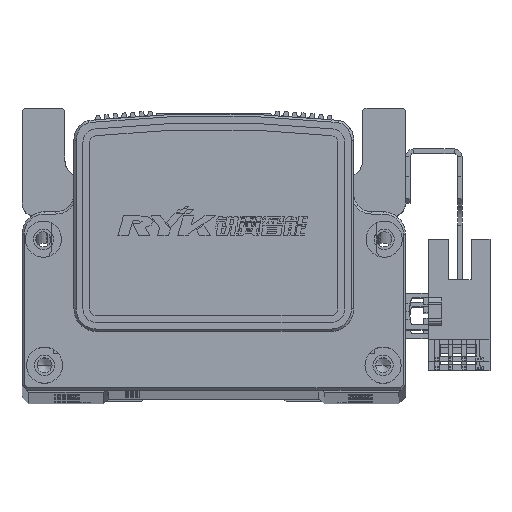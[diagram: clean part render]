
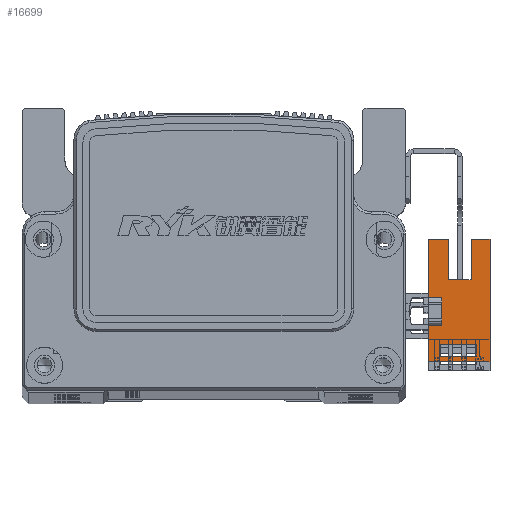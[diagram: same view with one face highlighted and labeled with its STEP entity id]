
A CAD part, top view. The second image highlights one B-rep face of the part: STEP entity #16699.
In plain terms, the highlighted planar face has unit normal (0, 0, 1) as drawn and (1, 0, 0) by its records, which use the part's own axes.
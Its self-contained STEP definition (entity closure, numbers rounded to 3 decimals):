
#3713 = DIRECTION ( 'NONE',  ( 0., 0., 1. ) ) ;
#3725 = DIRECTION ( 'NONE',  ( 0., 1., 0. ) ) ;
#3743 = CARTESIAN_POINT ( 'NONE',  ( 3.2, 7.1, -6.5 ) ) ;
#3747 = CARTESIAN_POINT ( 'NONE',  ( 3.2, 16.1, 3. ) ) ;
#3768 = DIRECTION ( 'NONE',  ( 0., 0., 1. ) ) ;
#3772 = CARTESIAN_POINT ( 'NONE',  ( 3.2, 16.1, -10.7 ) ) ;
#3851 = CARTESIAN_POINT ( 'NONE',  ( 3.2, 16.1, 3. ) ) ;
#3865 = DIRECTION ( 'NONE',  ( 0., 1., 0. ) ) ;
#3879 = DIRECTION ( 'NONE',  ( 0., 0., -1. ) ) ;
#3880 = DIRECTION ( 'NONE',  ( 0., 0., -1. ) ) ;
#3883 = CARTESIAN_POINT ( 'NONE',  ( 3.2, 0., 0. ) ) ;
#3885 = CARTESIAN_POINT ( 'NONE',  ( 3.2, -9.83, -10.7 ) ) ;
#3903 = CARTESIAN_POINT ( 'NONE',  ( 3.2, -3.1, 3. ) ) ;
#3907 = DIRECTION ( 'NONE',  ( 0., 1., 0. ) ) ;
#4173 = VECTOR ( 'NONE', #3768, 1000. ) ;
#4176 = VECTOR ( 'NONE', #3725, 1000. ) ;
#4184 = LINE ( 'NONE', #3747, #4176 ) ;
#4197 = VECTOR ( 'NONE', #3713, 1000. ) ;
#4212 = LINE ( 'NONE', #3772, #4173 ) ;
#4224 = LINE ( 'NONE', #3743, #4197 ) ;
#4272 = LINE ( 'NONE', #3851, #4281 ) ;
#4281 = VECTOR ( 'NONE', #3865, 1000. ) ;
#4295 = VECTOR ( 'NONE', #3879, 1000. ) ;
#4304 = LINE ( 'NONE', #3883, #4328 ) ;
#4319 = VECTOR ( 'NONE', #3880, 1000. ) ;
#4328 = VECTOR ( 'NONE', #3907, 1000. ) ;
#4329 = LINE ( 'NONE', #3885, #4295 ) ;
#4340 = LINE ( 'NONE', #3903, #4319 ) ;
#5326 = CARTESIAN_POINT ( 'NONE',  ( 3.2, 7.1, -1.5 ) ) ;
#5386 = CARTESIAN_POINT ( 'NONE',  ( 3.2, 3.1, 0. ) ) ;
#5396 = CARTESIAN_POINT ( 'NONE',  ( 3.2, 16.1, -1.5 ) ) ;
#5982 = CARTESIAN_POINT ( 'NONE',  ( 3.2, -3.1, 3. ) ) ;
#5991 = CARTESIAN_POINT ( 'NONE',  ( 3.2, 16.1, 3. ) ) ;
#6006 = CARTESIAN_POINT ( 'NONE',  ( 3.2, 16.1, -6.5 ) ) ;
#6011 = CARTESIAN_POINT ( 'NONE',  ( 3.2, 3.1, 3. ) ) ;
#6014 = CARTESIAN_POINT ( 'NONE',  ( 3.2, 16.1, -10.7 ) ) ;
#6015 = CARTESIAN_POINT ( 'NONE',  ( 3.2, -11.1, 3. ) ) ;
#6028 = CARTESIAN_POINT ( 'NONE',  ( 3.2, -3.1, 0. ) ) ;
#6046 = CARTESIAN_POINT ( 'NONE',  ( 3.2, -9.83, 0.3 ) ) ;
#6050 = CARTESIAN_POINT ( 'NONE',  ( 3.2, 7.1, -6.5 ) ) ;
#6056 = CARTESIAN_POINT ( 'NONE',  ( 3.2, -9.83, -7.7 ) ) ;
#6058 = CARTESIAN_POINT ( 'NONE',  ( 3.2, -7.33, -7.7 ) ) ;
#6077 = CARTESIAN_POINT ( 'NONE',  ( 3.2, -11.1, -10.7 ) ) ;
#6081 = CARTESIAN_POINT ( 'NONE',  ( 3.2, -7.33, 0.3 ) ) ;
#16699 = ADVANCED_FACE ( 'NONE', ( #46895, #46944 ), #46371, .T. ) ;
#17009 = EDGE_CURVE ( 'NONE', #56368, #57454, #47435, .T. ) ;
#17023 = EDGE_CURVE ( 'NONE', #56322, #57432, #47401, .T. ) ;
#17027 = EDGE_CURVE ( 'NONE', #57493, #57487, #47470, .T. ) ;
#17031 = EDGE_CURVE ( 'NONE', #57495, #57412, #47512, .T. ) ;
#17038 = EDGE_CURVE ( 'NONE', #57495, #57387, #47481, .T. ) ;
#17045 = EDGE_CURVE ( 'NONE', #57500, #57470, #47507, .T. ) ;
#17046 = EDGE_CURVE ( 'NONE', #57470, #57493, #47522, .T. ) ;
#17056 = EDGE_CURVE ( 'NONE', #56325, #56368, #47496, .T. ) ;
#17066 = EDGE_CURVE ( 'NONE', #57385, #57499, #47527, .T. ) ;
#26580 = ORIENTED_EDGE ( 'NONE', *, *, #35807, .F. ) ;
#26581 = ORIENTED_EDGE ( 'NONE', *, *, #35748, .T. ) ;
#26584 = ORIENTED_EDGE ( 'NONE', *, *, #17066, .T. ) ;
#26585 = ORIENTED_EDGE ( 'NONE', *, *, #17031, .F. ) ;
#26588 = ORIENTED_EDGE ( 'NONE', *, *, #17046, .F. ) ;
#26591 = ORIENTED_EDGE ( 'NONE', *, *, #35753, .F. ) ;
#26593 = ORIENTED_EDGE ( 'NONE', *, *, #17056, .T. ) ;
#26595 = ORIENTED_EDGE ( 'NONE', *, *, #17038, .T. ) ;
#26597 = ORIENTED_EDGE ( 'NONE', *, *, #17009, .T. ) ;
#26598 = ORIENTED_EDGE ( 'NONE', *, *, #35769, .T. ) ;
#26601 = ORIENTED_EDGE ( 'NONE', *, *, #17027, .F. ) ;
#26607 = ORIENTED_EDGE ( 'NONE', *, *, #17045, .F. ) ;
#26617 = ORIENTED_EDGE ( 'NONE', *, *, #35828, .F. ) ;
#26630 = ORIENTED_EDGE ( 'NONE', *, *, #17023, .F. ) ;
#26631 = ORIENTED_EDGE ( 'NONE', *, *, #35825, .F. ) ;
#26637 = ORIENTED_EDGE ( 'NONE', *, *, #35824, .F. ) ;
#35748 = EDGE_CURVE ( 'NONE', #57499, #56325, #4224, .T. ) ;
#35753 = EDGE_CURVE ( 'NONE', #57412, #57397, #4184, .T. ) ;
#35769 = EDGE_CURVE ( 'NONE', #57387, #57385, #4212, .T. ) ;
#35807 = EDGE_CURVE ( 'NONE', #57432, #57454, #4272, .T. ) ;
#35824 = EDGE_CURVE ( 'NONE', #57487, #57500, #4329, .T. ) ;
#35825 = EDGE_CURVE ( 'NONE', #57472, #56322, #4304, .T. ) ;
#35828 = EDGE_CURVE ( 'NONE', #57397, #57472, #4340, .T. ) ;
#43499 = AXIS2_PLACEMENT_3D ( 'NONE', #46369, #46372, #46374 ) ;
#46369 = CARTESIAN_POINT ( 'NONE',  ( 3.2, 16.1, -10.7 ) ) ;
#46371 = PLANE ( 'NONE',  #43499 ) ;
#46372 = DIRECTION ( 'NONE',  ( 1., 0., 0. ) ) ;
#46374 = DIRECTION ( 'NONE',  ( 0., 1., 0. ) ) ;
#46895 = FACE_OUTER_BOUND ( 'NONE', #56530, .T. ) ;
#46944 = FACE_BOUND ( 'NONE', #56521, .T. ) ;
#47399 = VECTOR ( 'NONE', #48392, 1000. ) ;
#47401 = LINE ( 'NONE', #48452, #47443 ) ;
#47435 = LINE ( 'NONE', #48390, #47399 ) ;
#47443 = VECTOR ( 'NONE', #48447, 1000. ) ;
#47462 = VECTOR ( 'NONE', #48481, 1000. ) ;
#47470 = LINE ( 'NONE', #48442, #47477 ) ;
#47471 = VECTOR ( 'NONE', #48512, 1000. ) ;
#47477 = VECTOR ( 'NONE', #48446, 1000. ) ;
#47481 = LINE ( 'NONE', #48479, #47471 ) ;
#47484 = VECTOR ( 'NONE', #48495, 1000. ) ;
#47496 = LINE ( 'NONE', #48532, #47524 ) ;
#47507 = LINE ( 'NONE', #48490, #47462 ) ;
#47512 = LINE ( 'NONE', #48464, #47519 ) ;
#47519 = VECTOR ( 'NONE', #48461, 1000. ) ;
#47522 = LINE ( 'NONE', #48484, #47484 ) ;
#47524 = VECTOR ( 'NONE', #48554, 1000. ) ;
#47527 = LINE ( 'NONE', #48545, #47569 ) ;
#47569 = VECTOR ( 'NONE', #48526, 1000. ) ;
#48390 = CARTESIAN_POINT ( 'NONE',  ( 3.2, 16.1, -10.7 ) ) ;
#48392 = DIRECTION ( 'NONE',  ( 0., 0., 1. ) ) ;
#48442 = CARTESIAN_POINT ( 'NONE',  ( 3.2, 16.1, 0.3 ) ) ;
#48446 = DIRECTION ( 'NONE',  ( 0., -1., 0. ) ) ;
#48447 = DIRECTION ( 'NONE',  ( 0., 0., 1. ) ) ;
#48452 = CARTESIAN_POINT ( 'NONE',  ( 3.2, 3.1, 3. ) ) ;
#48461 = DIRECTION ( 'NONE',  ( 0., 0., 1. ) ) ;
#48464 = CARTESIAN_POINT ( 'NONE',  ( 3.2, -11.1, 3. ) ) ;
#48479 = CARTESIAN_POINT ( 'NONE',  ( 3.2, 16.1, -10.7 ) ) ;
#48481 = DIRECTION ( 'NONE',  ( 0., 1., 0. ) ) ;
#48484 = CARTESIAN_POINT ( 'NONE',  ( 3.2, -7.33, -10.7 ) ) ;
#48490 = CARTESIAN_POINT ( 'NONE',  ( 3.2, 16.1, -7.7 ) ) ;
#48495 = DIRECTION ( 'NONE',  ( 0., 0., 1. ) ) ;
#48512 = DIRECTION ( 'NONE',  ( 0., 1., 0. ) ) ;
#48526 = DIRECTION ( 'NONE',  ( 0., -1., 0. ) ) ;
#48532 = CARTESIAN_POINT ( 'NONE',  ( 3.2, 25.1, -1.5 ) ) ;
#48545 = CARTESIAN_POINT ( 'NONE',  ( 3.2, 25.1, -6.5 ) ) ;
#48554 = DIRECTION ( 'NONE',  ( 0., 1., 0. ) ) ;
#56322 = VERTEX_POINT ( 'NONE', #5386 ) ;
#56325 = VERTEX_POINT ( 'NONE', #5326 ) ;
#56368 = VERTEX_POINT ( 'NONE', #5396 ) ;
#56521 = EDGE_LOOP ( 'NONE', ( #26601, #26588, #26607, #26637 ) ) ;
#56530 = EDGE_LOOP ( 'NONE', ( #26584, #26581, #26593, #26597, #26580, #26630, #26631, #26617, #26591, #26585, #26595, #26598 ) ) ;
#57385 = VERTEX_POINT ( 'NONE', #6006 ) ;
#57387 = VERTEX_POINT ( 'NONE', #6014 ) ;
#57397 = VERTEX_POINT ( 'NONE', #5982 ) ;
#57412 = VERTEX_POINT ( 'NONE', #6015 ) ;
#57432 = VERTEX_POINT ( 'NONE', #6011 ) ;
#57454 = VERTEX_POINT ( 'NONE', #5991 ) ;
#57470 = VERTEX_POINT ( 'NONE', #6058 ) ;
#57472 = VERTEX_POINT ( 'NONE', #6028 ) ;
#57487 = VERTEX_POINT ( 'NONE', #6046 ) ;
#57493 = VERTEX_POINT ( 'NONE', #6081 ) ;
#57495 = VERTEX_POINT ( 'NONE', #6077 ) ;
#57499 = VERTEX_POINT ( 'NONE', #6050 ) ;
#57500 = VERTEX_POINT ( 'NONE', #6056 ) ;
